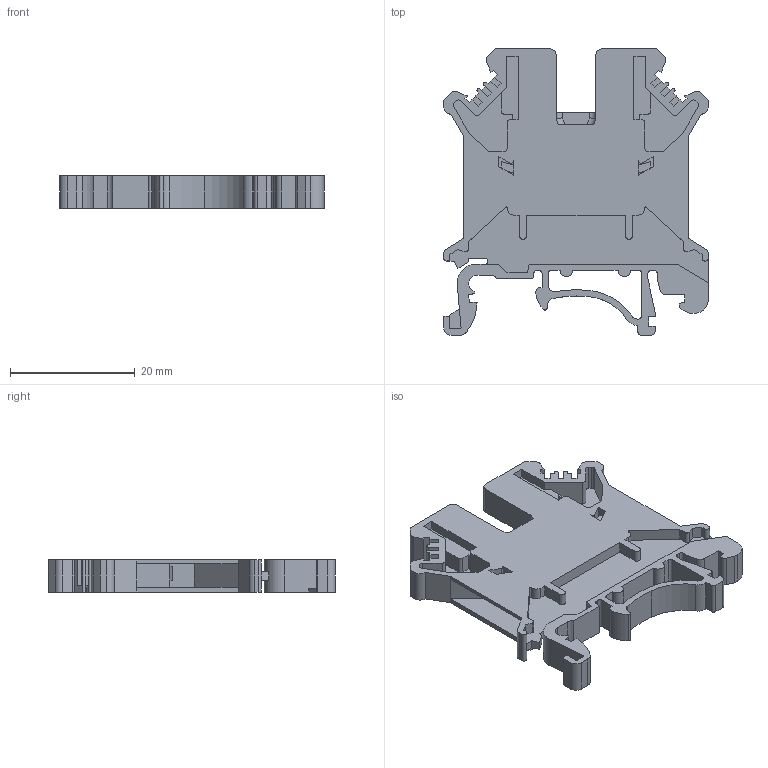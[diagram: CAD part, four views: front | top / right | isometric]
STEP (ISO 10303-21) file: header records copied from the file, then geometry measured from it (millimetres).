
FILE_DESCRIPTION(/* description */ (''),/* implementation_level */ '2;1');
FILE_NAME(/* name */ 'JUT1-2.5.stp',/* time_stamp */ '2023-02-14T15:09:06+08:00',/* author */ (''),/* organization */ (''),/* preprocessor_version */ 'ST-DEVELOPER v16.7',/* originating_system */ 'SIEMENS PLM Software NX 12.0',/* authorisation */ '');
FILE_SCHEMA (('AP203_CONFIGURATION_CONTROLLED_3D_DESIGN_OF_MECHANICAL_PARTS_AND_ASSEMBLIES_MIM_LF { 1 0 10303 403 2 1 2}'));
Length unit declared in the file: millimetre
Products named in the file (1): Admi01CC23451ns1
Bounding box: 42.5 x 46 x 5.2 mm (x, y, z)
Volume: 4394.8 mm3; surface area: 5936.4 mm2
Topology: 1 solids, 1 shells, 395 faces, 1141 edges, 754 vertices
Faces by surface type: plane 269, cylinder 110, torus 12, bspline 4
Entity records: 14283 total; most frequent: CARTESIAN_POINT 3209, ORIENTED_EDGE 2282, DIRECTION 2149, EDGE_CURVE 1141, LINE 869, VECTOR 869, VERTEX_POINT 754, AXIS2_PLACEMENT_3D 640
